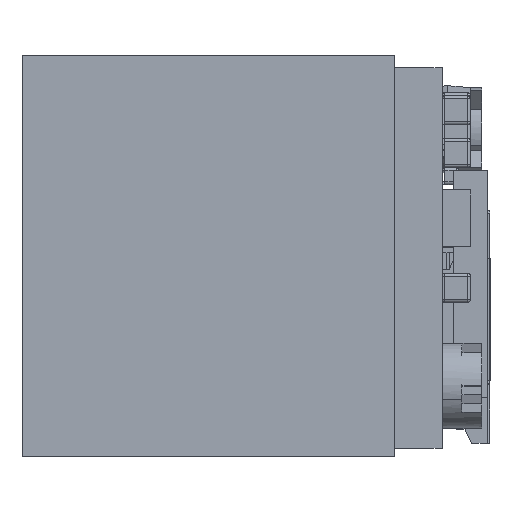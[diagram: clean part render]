
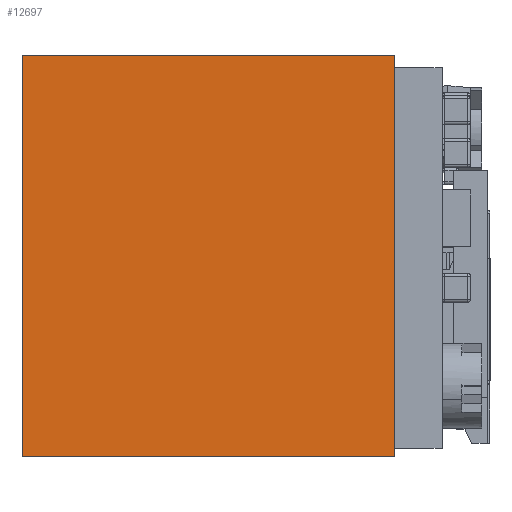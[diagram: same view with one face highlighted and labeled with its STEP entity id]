
A CAD part, left-side view. The second image highlights one B-rep face of the part: STEP entity #12697.
In plain terms, the highlighted planar face has unit normal (-1, 0, 0).
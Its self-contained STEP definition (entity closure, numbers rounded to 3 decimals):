
#11191=DIRECTION('',(0.,0.,1.));
#11192=VECTOR('',#11191,7.074);
#11193=CARTESIAN_POINT('',(-11.349,2.717,
17.612));
#11194=LINE('',#11193,#11192);
#11374=DIRECTION('',(0.,0.,-1.));
#11375=VECTOR('',#11374,7.074);
#11376=CARTESIAN_POINT('',(-11.349,-3.843,
24.686));
#11377=LINE('',#11376,#11375);
#11544=DIRECTION('',(0.,-1.,0.));
#11545=VECTOR('',#11544,6.56);
#11546=CARTESIAN_POINT('',(-11.349,2.717,
17.612));
#11547=LINE('',#11546,#11545);
#11552=DIRECTION('',(0.,-1.,0.));
#11553=VECTOR('',#11552,6.56);
#11554=CARTESIAN_POINT('',(-11.349,2.717,
24.686));
#11555=LINE('',#11554,#11553);
#12312=CARTESIAN_POINT('',(-11.349,2.717,
17.612));
#12314=VERTEX_POINT('',#12312);
#12323=CARTESIAN_POINT('',(-11.349,2.717,
24.686));
#12324=VERTEX_POINT('',#12323);
#12329=CARTESIAN_POINT('',(-11.349,-3.843,
17.612));
#12330=VERTEX_POINT('',#12329);
#12337=CARTESIAN_POINT('',(-11.349,-3.843,
24.686));
#12338=VERTEX_POINT('',#12337);
#12685=CARTESIAN_POINT('',(-11.349,-25.009,
17.962));
#12686=DIRECTION('',(-1.,0.,0.));
#12687=DIRECTION('',(0.,0.,1.));
#12688=AXIS2_PLACEMENT_3D('',#12685,#12686,#12687);
#12689=PLANE('',#12688);
#12690=ORIENTED_EDGE('',*,*,#12485,.T.);
#12692=ORIENTED_EDGE('',*,*,#12691,.T.);
#12693=ORIENTED_EDGE('',*,*,#12603,.T.);
#12694=ORIENTED_EDGE('',*,*,#12526,.F.);
#12695=EDGE_LOOP('',(#12690,#12692,#12693,#12694));
#12696=FACE_OUTER_BOUND('',#12695,.F.);
#12485=EDGE_CURVE('',#12314,#12324,#11194,.T.);
#12526=EDGE_CURVE('',#12314,#12330,#11547,.T.);
#12603=EDGE_CURVE('',#12338,#12330,#11377,.T.);
#12691=EDGE_CURVE('',#12324,#12338,#11555,.T.);
#12697=ADVANCED_FACE('',(#12696),#12689,.T.);
